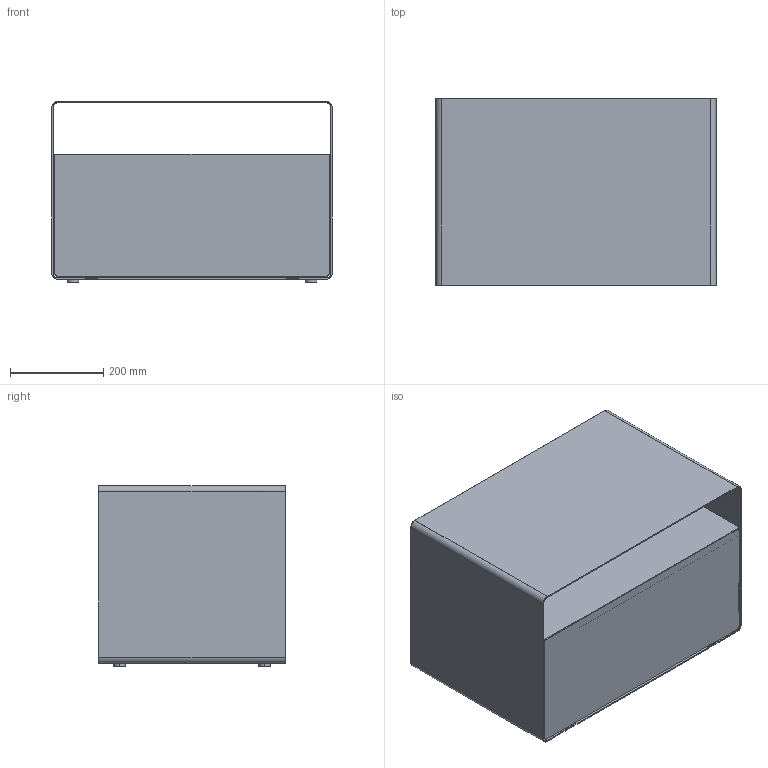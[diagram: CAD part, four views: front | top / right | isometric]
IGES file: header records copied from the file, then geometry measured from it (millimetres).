
Start section: Comment
Global section: file name: R107N.igs; native system:  By UGS Corp.; preprocessor: XPlus GENERIC/IGES 3.0; author: Author; organization: Title; date: 20151109.130152; units: inch
Bounding box: 600 x 400 x 387 mm (x, y, z)
Surface area: 2918754.1 mm2 (no closed solid volume)
Topology: 0 solids, 0 shells, 79 faces, 420 edges, 420 vertices
Faces by surface type: bspline 79
